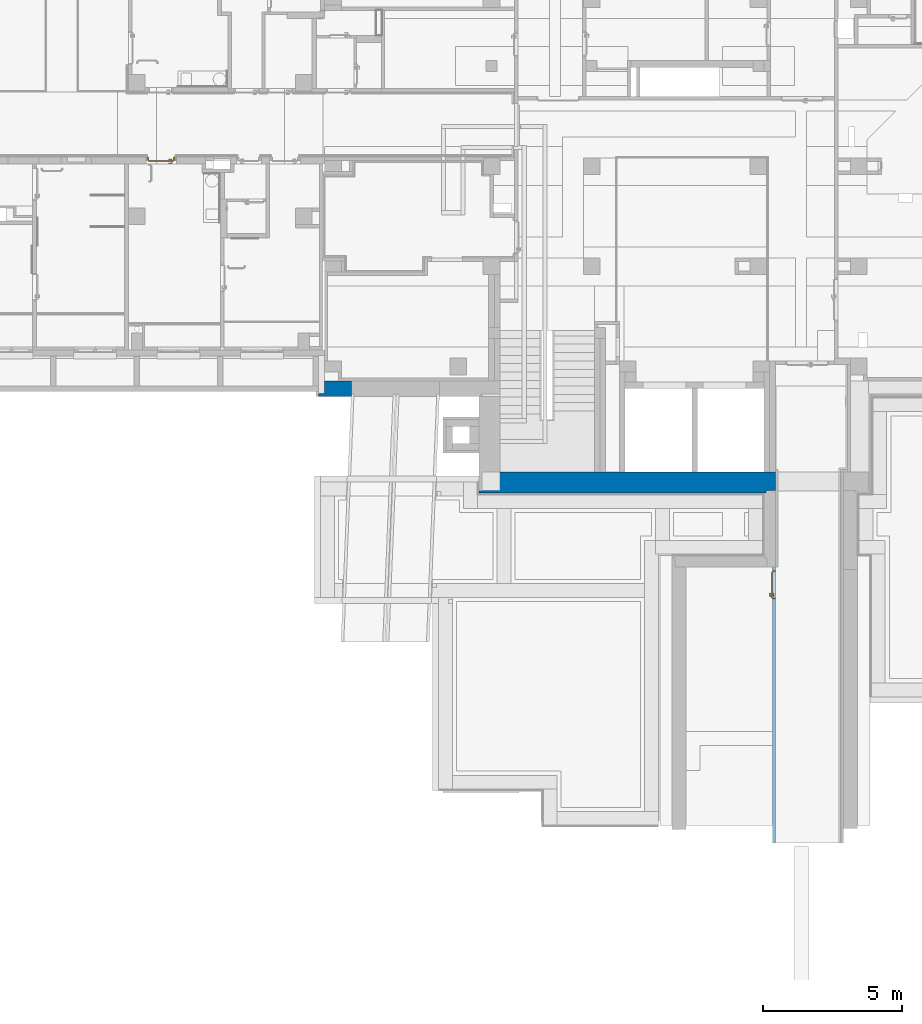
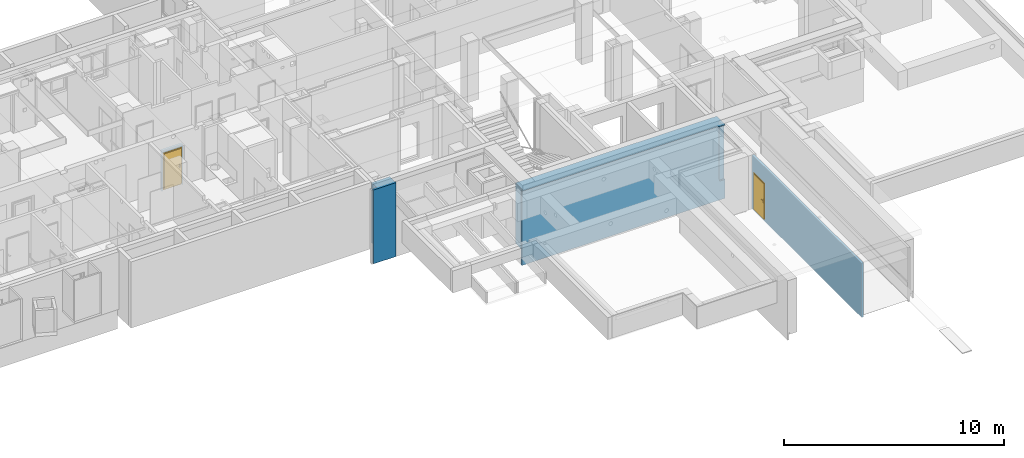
# One storey, part 55 of 84: 2 doors, 2 walls, 2 openings, plus 2 elements that do not belong to this part.
"""IFC4 building model written with IfcOpenShell, lengths in metres."""

from ifc_helpers import new_model, entity, si_unit, converted_unit, derived_unit, frame, frame_2d, origin, origin_with_axes, place, context, subcontext, project, spatial, polyline, rectangle, outline, extrude, closed_shell, open_shell, faceted_brep, surface_model, source, transform, mapped, material, layer, layer_set, layer_usage, type_object, element, fill, save


model = new_model("IFC4")

# Units and contexts
model_context = context("Model", 3, precision=1e-05, world=origin())
body_context = subcontext(model_context, "Body", "Model", "MODEL_VIEW")
ifc_project = project(units=[si_unit("LENGTHUNIT", "METRE"), si_unit("AREAUNIT", "SQUARE_METRE"), si_unit("VOLUMEUNIT", "CUBIC_METRE"), si_unit("MASSUNIT", "GRAM", prefix="KILO"), converted_unit("PLANEANGLEUNIT", "DEGREE", entity("IfcPlaneAngleMeasure", 0.0174532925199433), si_unit("PLANEANGLEUNIT", "RADIAN"), dimensions=[0, 0, 0, 0, 0, 0, 0]), derived_unit("THERMALTRANSMITTANCEUNIT", [(si_unit("POWERUNIT", "WATT"), 1), (si_unit("THERMODYNAMICTEMPERATUREUNIT", "KELVIN"), -1), (si_unit("LENGTHUNIT", "METRE"), -2)]), derived_unit("VOLUMETRICFLOWRATEUNIT", [(si_unit("LENGTHUNIT", "METRE"), 3), (converted_unit("TIMEUNIT", "hour", entity("IfcTimeMeasure", 3600.0), si_unit("TIMEUNIT", "SECOND"), dimensions=[0, 0, 1, 0, 0, 0, 0]), -1), (si_unit("LENGTHUNIT", "METRE"), -1)])], contexts=[model_context])

# Site, building, storey
site_placement = place(None, origin())
site = spatial("IfcSite", under=ifc_project, at=site_placement, Name="3. ASŘ", CompositionType="ELEMENT")
building_placement = place(site_placement, origin())
building = spatial("IfcBuilding", under=site, at=building_placement, Name="Pavilon C", CompositionType="ELEMENT")
storey_placement = place(building_placement, frame((0.0, 0.0, -3.3)))
storey = spatial("IfcBuildingStorey", under=building, at=storey_placement, Name="Půdorys 1.PP", CompositionType="ELEMENT", Elevation=-3.3)

# Walls
ifc_material_1 = material(Name="ZELEZOBETONOVÁ KCE")
wall_1_placement = place(storey_placement, frame((30.295, -4.555, -1.15)))
element("IfcWall", 1, at=wall_1_placement, inside=storey, material=ifc_material_1, Name="ZELEZOBETONOVÁ KCE", context=body_context, shape_type="Brep", body=[
    faceted_brep([(0.104999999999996, 0.755, 0.750000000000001), (10.655, 0.755, 0.750000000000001), (10.655, 0.755, 4.1), (0.104999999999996, 0.755, 4.1), (10.655, 0.0, 4.1), (-3.63797880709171e-15, 0.0, 4.1), (-3.63797880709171e-15, 0.08, 4.1), (0.0799999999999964, 0.0799999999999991, 4.1), (0.0799999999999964, 0.104999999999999, 4.1), (0.104999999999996, 0.105, 4.1), (10.655, 0.105, 0.750000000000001), (10.655, 0.105, 4.05), (10.655, 0.0, 4.05), (0.104999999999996, 0.105, 0.750000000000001), (0.104999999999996, 0.105, 1.15), (10.355, 0.104999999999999, 1.15), (10.355, 0.104999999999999, 4.05), (10.355, 0.0799999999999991, 4.05), (10.33, 0.0799999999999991, 4.05), (10.33, 0.0, 4.05), (10.33, 0.0, 1.15), (10.33, 0.0799999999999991, 1.15), (10.355, 0.0799999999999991, 1.15), (10.355, 0.0, 1.15), (10.355, 0.08, 1.05), (10.355, 0.0, 1.05), (10.655, 0.0, 1.05), (10.655, 0.08, 1.05), (10.655, 0.0, 0.0), (-3.63797880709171e-15, 0.0, 0.0), (-3.63797880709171e-15, 0.08, 0.0), (10.655, 0.08, 0.0), (0.0799999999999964, 0.0799999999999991, 1.15), (0.0799999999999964, 0.104999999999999, 1.15)], [[[0, 1, 2, 3]], [[2, 4, 5, 6, 7, 8, 9, 3]], [[1, 10, 11, 12, 4, 2]], [[10, 1, 0, 13]], [[14, 13, 0, 3, 9]], [[11, 10, 13, 14, 15, 16]], [[11, 16, 17, 18, 19, 12]], [[20, 21, 22, 23]], [[18, 21, 20, 19]], [[23, 22, 24, 25]], [[26, 25, 24, 27]], [[12, 19, 20, 23, 25, 26, 28, 29, 5, 4]], [[29, 30, 6, 5]], [[6, 30, 31, 27, 24, 22, 21, 32, 7]], [[27, 31, 28, 26]], [[28, 31, 30, 29]], [[22, 17, 16, 15]], [[8, 33, 14, 9]], [[32, 33, 8, 7]], [[15, 14, 33, 32, 21, 22]], [[21, 18, 17, 22]]], orient=[[False], [False], [False], [False], [False], [False], [False], [False], [False], [False], [False], [False], [False], [False], [False], [False], [False], [False], [False], [False], [False]]),
])
ifc_material_2 = material(Name="ZELEZOBETONOVÁ KCE")
wall_2_placement = place(storey_placement, frame((24.525, -1.075, -1.15)))
element("IfcWall", 2, at=wall_2_placement, inside=storey, material=ifc_material_2, Name="ZELEZOBETONOVÁ KCE", context=body_context, shape_type="Brep", body=[
    faceted_brep([(0.224999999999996, 0.555, 0.750000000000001), (1.18316897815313, 0.555, 0.750000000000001), (1.18316897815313, 0.555, 4.1), (0.224999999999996, 0.555, 4.1), (1.18316897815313, 0.0, 4.1), (-3.63797880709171e-15, 0.0, 4.1), (-3.63797880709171e-15, 0.08, 4.1), (0.0249999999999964, 0.0799999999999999, 4.1), (0.0249999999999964, 0.105, 4.1), (0.224999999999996, 0.105, 4.1), (1.18316897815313, 0.105, 0.750000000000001), (0.224999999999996, 0.105, 0.750000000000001), (0.224999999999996, 0.105, 1.15), (1.18316897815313, 0.105, 1.15), (1.18316897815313, 0.0799999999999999, 1.15), (1.18316897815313, 0.08, 0.0), (1.18316897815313, 0.0, 0.0), (1.18316897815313, 0.0, 2.77), (1.18316897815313, 0.0799999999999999, 2.77), (1.18316897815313, 0.0799999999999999, 3.47), (1.18316897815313, 0.0, 3.47), (1.17984358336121, 0.0, 3.47), (1.17984358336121, 0.0, 2.77), (-3.63797880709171e-15, 0.0, 0.0), (-3.63797880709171e-15, 0.08, 0.0), (0.0249999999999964, 0.0799999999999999, 1.15), (0.0249999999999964, 0.105, 1.15)], [[[0, 1, 2, 3]], [[2, 4, 5, 6, 7, 8, 9, 3]], [[10, 1, 0, 11]], [[12, 11, 0, 3, 9]], [[1, 10, 13, 14, 15, 16, 17, 18, 19, 20, 4, 2]], [[10, 11, 12, 13]], [[19, 21, 20]], [[18, 22, 21, 19]], [[22, 18, 17]], [[21, 22, 17, 16, 23, 5, 4, 20]], [[23, 24, 6, 5]], [[6, 24, 15, 14, 25, 7]], [[16, 15, 24, 23]], [[25, 26, 8, 7]], [[8, 26, 12, 9]], [[14, 13, 12, 26, 25]]], orient=[[False], [False], [False], [False], [False], [False], [False], [False], [False], [False], [False], [False], [False], [False], [False], [False]]),
])

# Wall, opening, door
ifc_material_3 = material(Name="DŘEVĚNÁ KCE")
ifc_layer_1 = layer(ifc_material_3, 0.1)
ifc_layer_set_1 = layer_set([ifc_layer_1])
ifc_layer_usage_1 = layer_usage(ifc_layer_set_1, "AXIS2", "POSITIVE", 0.0)
wall_3_placement = place(storey_placement, frame((40.95, -17.125, -0.1), z_axis=(0.0, 0.0, 1.0), x_axis=(0.0, 1.0, 0.0)))
wall_3 = element("IfcWall", 3, at=wall_3_placement, inside=storey, material=ifc_layer_usage_1, Name="DŘEVĚNÁ KCE", context=body_context, shape_type="SweptSolid", body=[
    extrude(rectangle(XDim=9.925, YDim=0.1, at=frame_2d((4.9625, 0.05), x_axis=(1.0, 0.0))), origin_with_axes(), (0.0, 0.0, 1.0), 3.0),
])
opening_1_placement = place(wall_3_placement, frame((9.79, 0.1, 0.1), z_axis=(0.0, -1.0, 0.0), x_axis=(0.0, 0.0, 1.0)))
opening_1 = element("IfcOpeningElement", 4, at=opening_1_placement, cuts=wall_3, Name="Dveřní otvor", ObjectType="Opening", context=body_context, shape_type="SweptSolid", body=[
    extrude(outline(polyline([(0.0, 1.03), (2.02, 1.03), (2.02, 0.0), (0.0, 0.0), (0.0, 1.03)])), origin_with_axes(), (0.0, 0.0, 1.0), 0.1),
])
door_type_1 = type_object("IfcDoorType", Name="D101", OperationType="NOTDEFINED", ParameterTakesPrecedence=False, PredefinedType="DOOR")
shared_shape_1 = source(origin_with_axes(), body_context, "Body", "SurfaceModel", [
    surface_model("IfcShellBasedSurfaceModel", [(0.0, 0.1, 2.02), (0.0, 0.1, -6.12323399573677e-18), (0.05, 0.1, -6.12323399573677e-18), (0.05, 0.1, 2.02), (0.0, 0.0, 6.12323399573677e-18), (0.0, 2.41584530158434e-16, 2.02), (0.05, 2.41584530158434e-16, 2.02), (0.05, 0.0, 6.12323399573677e-18)], [closed_shell([[[0, 1, 2, 3]], [[4, 5, 6, 7]], [[1, 0, 5, 4]], [[2, 1, 4, 7]], [[3, 2, 7, 6]], [[0, 3, 6, 5]]], orient=[[False], [False], [False], [False], [False], [False]])]),
    surface_model("IfcShellBasedSurfaceModel", [(0.98, 0.1, 2.02), (0.98, 0.1, -6.12323399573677e-18), (1.03, 0.1, -6.12323399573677e-18), (1.03, 0.1, 2.02), (0.98, 0.0, 6.12323399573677e-18), (0.98, 2.41584530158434e-16, 2.02), (1.03, 2.41584530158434e-16, 2.02), (1.03, 0.0, 6.12323399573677e-18)], [closed_shell([[[0, 1, 2, 3]], [[4, 5, 6, 7]], [[1, 0, 5, 4]], [[2, 1, 4, 7]], [[3, 2, 7, 6]], [[0, 3, 6, 5]]], orient=[[False], [False], [False], [False], [False], [False]])]),
    surface_model("IfcShellBasedSurfaceModel", [(0.05, 0.1, 2.02), (0.05, 0.1, 1.97), (0.98, 0.1, 1.97), (0.98, 0.1, 2.02), (0.05, 2.41584530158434e-16, 1.97), (0.05, 2.41584530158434e-16, 2.02), (0.98, 2.41584530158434e-16, 2.02), (0.98, 2.41584530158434e-16, 1.97)], [closed_shell([[[0, 1, 2, 3]], [[4, 5, 6, 7]], [[1, 0, 5, 4]], [[2, 1, 4, 7]], [[3, 2, 7, 6]], [[0, 3, 6, 5]]], orient=[[False], [False], [False], [False], [False], [False]])]),
    surface_model("IfcShellBasedSurfaceModel", [(0.05, 0.14, 1.97), (0.05, 0.14, -1.10218211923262e-17), (0.98, 0.14, -1.10218211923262e-17), (0.98, 0.14, 1.97), (0.05, 0.1, -6.12323399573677e-18), (0.05, 0.1, 1.97), (0.98, 0.1, 1.97), (0.98, 0.1, -6.12323399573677e-18)], [closed_shell([[[0, 1, 2, 3]], [[4, 5, 6, 7]], [[1, 0, 5, 4]], [[2, 1, 4, 7]], [[3, 2, 7, 6]], [[0, 3, 6, 5]]], orient=[[False], [False], [False], [False], [False], [False]])]),
    surface_model("IfcShellBasedSurfaceModel", [(0.89, 0.1, 1.125), (0.89, 0.1, 0.91), (0.94, 0.1, 0.91), (0.94, 0.1, 1.125), (0.89, 0.0900000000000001, 0.91), (0.89, 0.0900000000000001, 1.125), (0.94, 0.0900000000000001, 1.125), (0.94, 0.0900000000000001, 0.91)], [closed_shell([[[0, 1, 2, 3]], [[4, 5, 6, 7]], [[1, 0, 5, 4]], [[2, 1, 4, 7]], [[3, 2, 7, 6]], [[0, 3, 6, 5]]], orient=[[False], [False], [False], [False], [False], [False]])]),
    surface_model("IfcShellBasedSurfaceModel", [(0.915, 0.0900000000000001, 1.06), (0.91, 0.0900000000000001, 1.05866025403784), (0.906339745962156, 0.0900000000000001, 1.055), (0.905, 0.0900000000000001, 1.05), (0.906339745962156, 0.0900000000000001, 1.045), (0.91, 0.0900000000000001, 1.04133974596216), (0.915, 0.0900000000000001, 1.04), (0.92, 0.0900000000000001, 1.04133974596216), (0.923660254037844, 0.0900000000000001, 1.045), (0.925, 0.0900000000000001, 1.05), (0.923660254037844, 0.0900000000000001, 1.055), (0.92, 0.0900000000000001, 1.05866025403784), (0.92, 0.0450000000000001, 1.05866025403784), (0.915, 0.0500000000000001, 1.06), (0.923660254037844, 0.0413397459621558, 1.055), (0.925, 0.0400000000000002, 1.05), (0.923660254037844, 0.0413397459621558, 1.045), (0.92, 0.0450000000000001, 1.04133974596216), (0.915, 0.0500000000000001, 1.04), (0.91, 0.0550000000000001, 1.04133974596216), (0.906339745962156, 0.0586602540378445, 1.045), (0.905, 0.0600000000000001, 1.05), (0.906339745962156, 0.0586602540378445, 1.055), (0.91, 0.0550000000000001, 1.05866025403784), (0.8, 0.0450000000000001, 1.05866025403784), (0.8, 0.0500000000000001, 1.06), (0.8, 0.0413397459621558, 1.055), (0.8, 0.0400000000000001, 1.05), (0.8, 0.0413397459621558, 1.045), (0.8, 0.0450000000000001, 1.04133974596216), (0.8, 0.0500000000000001, 1.04), (0.8, 0.0550000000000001, 1.04133974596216), (0.8, 0.0586602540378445, 1.045), (0.8, 0.0600000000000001, 1.05), (0.8, 0.0586602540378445, 1.055), (0.8, 0.0550000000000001, 1.05866025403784)], [open_shell([[[0, 1, 2, 3, 4, 5, 6, 7, 8, 9, 10, 11]], [[0, 11, 12, 13]], [[11, 10, 14, 12]], [[10, 9, 15, 14]], [[9, 8, 16, 15]], [[8, 7, 17, 16]], [[7, 6, 18, 17]], [[6, 5, 19, 18]], [[5, 4, 20, 19]], [[4, 3, 21, 20]], [[3, 2, 22, 21]], [[2, 1, 23, 22]], [[1, 0, 13, 23]], [[13, 12, 24, 25]], [[12, 14, 26, 24]], [[14, 15, 27, 26]], [[15, 16, 28, 27]], [[16, 17, 29, 28]], [[17, 18, 30, 29]], [[18, 19, 31, 30]], [[19, 20, 32, 31]], [[20, 21, 33, 32]], [[21, 22, 34, 33]], [[22, 23, 35, 34]], [[23, 13, 25, 35]]], orient=[[False], [False], [False], [False], [False], [False], [False], [False], [False], [False], [False], [False], [False], [False], [False], [False], [False], [False], [False], [False], [False], [False], [False], [False], [False]])]),
    surface_model("IfcShellBasedSurfaceModel", [(0.89, 0.14, 1.125), (0.94, 0.14, 1.125), (0.94, 0.14, 0.91), (0.89, 0.14, 0.91), (0.89, 0.15, 0.91), (0.94, 0.15, 0.91), (0.94, 0.15, 1.125), (0.89, 0.15, 1.125)], [closed_shell([[[0, 1, 2, 3]], [[4, 5, 6, 7]], [[3, 4, 7, 0]], [[2, 5, 4, 3]], [[1, 6, 5, 2]], [[0, 7, 6, 1]]], orient=[[False], [False], [False], [False], [False], [False]])]),
    surface_model("IfcShellBasedSurfaceModel", [(0.915, 0.15, 1.06), (0.92, 0.15, 1.05866025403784), (0.923660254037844, 0.15, 1.055), (0.925, 0.15, 1.05), (0.923660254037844, 0.15, 1.045), (0.92, 0.15, 1.04133974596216), (0.915, 0.15, 1.04), (0.91, 0.15, 1.04133974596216), (0.906339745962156, 0.15, 1.045), (0.905, 0.15, 1.05), (0.906339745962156, 0.15, 1.055), (0.91, 0.15, 1.05866025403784), (0.915, 0.19, 1.06), (0.92, 0.195, 1.05866025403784), (0.923660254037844, 0.198660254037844, 1.055), (0.925, 0.2, 1.05), (0.923660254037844, 0.198660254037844, 1.045), (0.92, 0.195, 1.04133974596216), (0.915, 0.19, 1.04), (0.91, 0.185, 1.04133974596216), (0.906339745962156, 0.181339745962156, 1.045), (0.905, 0.18, 1.05), (0.906339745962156, 0.181339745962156, 1.055), (0.91, 0.185, 1.05866025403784), (0.8, 0.19, 1.06), (0.8, 0.195, 1.05866025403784), (0.8, 0.198660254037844, 1.055), (0.8, 0.2, 1.05), (0.8, 0.198660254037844, 1.045), (0.8, 0.195, 1.04133974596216), (0.8, 0.19, 1.04), (0.8, 0.185, 1.04133974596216), (0.8, 0.181339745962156, 1.045), (0.8, 0.18, 1.05), (0.8, 0.181339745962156, 1.055), (0.8, 0.185, 1.05866025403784)], [open_shell([[[0, 1, 2, 3, 4, 5, 6, 7, 8, 9, 10, 11]], [[0, 12, 13, 1]], [[1, 13, 14, 2]], [[2, 14, 15, 3]], [[3, 15, 16, 4]], [[4, 16, 17, 5]], [[5, 17, 18, 6]], [[6, 18, 19, 7]], [[7, 19, 20, 8]], [[8, 20, 21, 9]], [[9, 21, 22, 10]], [[10, 22, 23, 11]], [[11, 23, 12, 0]], [[12, 24, 25, 13]], [[13, 25, 26, 14]], [[14, 26, 27, 15]], [[15, 27, 28, 16]], [[16, 28, 29, 17]], [[17, 29, 30, 18]], [[18, 30, 31, 19]], [[19, 31, 32, 20]], [[20, 32, 33, 21]], [[21, 33, 34, 22]], [[22, 34, 35, 23]], [[23, 35, 24, 12]]], orient=[[False], [False], [False], [False], [False], [False], [False], [False], [False], [False], [False], [False], [False], [False], [False], [False], [False], [False], [False], [False], [False], [False], [False], [False], [False]])]),
])
door_1_placement = place(opening_1_placement, frame((0.0, -9.09494701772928e-16, 0.0999999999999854), z_axis=(1.0, 0.0, 0.0), x_axis=(0.0, 0.999999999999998, -1.22464679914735e-16)))
door_1 = element("IfcDoor", 5, at=door_1_placement, inside=storey, type_object=door_type_1, Name="D101", OverallHeight=2.02, OverallWidth=1.03, context=body_context, shape_type="MappedRepresentation", body=[
    mapped(shared_shape_1, transform((0.0, 0.0, 0.0), x_axis=(1.0, 0.0, 0.0), y_axis=(0.0, -1.0, 0.0), z_axis=(0.0, 0.0, 1.0), scale=0.999999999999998)),
])
fill(opening_1, door_1)

ifc_material_4 = material(Name="YTONG 125")
ifc_layer_2 = layer(ifc_material_4, 0.125)
ifc_layer_set_2 = layer_set([ifc_layer_2])
ifc_layer_usage_2 = layer_usage(ifc_layer_set_2, "AXIS2", "POSITIVE", 0.0)
wall_4_placement = place(storey_placement, frame((19.425, 7.525, -0.1), z_axis=(0.0, 0.0, 1.0), x_axis=(-1.0, 0.0, 0.0)))
wall_4 = element("IfcWall", 6, at=wall_4_placement, inside=storey, material=ifc_layer_usage_2, Name="YTONG 125", context=body_context, shape_type="SweptSolid", body=[
    extrude(rectangle(XDim=1.1, YDim=0.125, at=frame_2d((0.55, 0.0625), x_axis=(1.0, 0.0))), origin_with_axes(), (0.0, 0.0, 1.0), 2.25),
])
opening_2_placement = place(wall_4_placement, frame((1.05, 0.125, 0.0), z_axis=(0.0, -1.0, 0.0), x_axis=(0.0, 0.0, 1.0)))
opening_2 = element("IfcOpeningElement", 7, at=opening_2_placement, cuts=wall_4, Name="Dveřní otvor", ObjectType="Opening", context=body_context, shape_type="SweptSolid", body=[
    extrude(outline(polyline([(0.0, 1.0), (2.12, 1.0), (2.12, 0.0), (0.0, 0.0), (0.0, 1.0)])), origin_with_axes(), (0.0, 0.0, 1.0), 0.125),
])
door_type_2 = type_object("IfcDoorType", Name="I.D021", OperationType="NOTDEFINED", ParameterTakesPrecedence=False, PredefinedType="DOOR")
shared_shape_2 = source(origin_with_axes(), body_context, "Body", "SurfaceModel", [
    surface_model("IfcShellBasedSurfaceModel", [(0.0, 0.0625, 0.0), (1.0, 0.0625, 0.0), (1.0, 0.0625, 0.1), (0.0, 0.0625, 0.1)], [open_shell([[[0, 1, 2, 3]]], orient=[[False]])]),
    surface_model("IfcShellBasedSurfaceModel", [(0.0, 0.125, 2.12), (0.0, 0.125, 0.101), (0.05, 0.125, 0.101), (0.05, 0.125, 2.12), (0.0, 0.0, 0.101), (0.0, 2.41584530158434e-16, 2.12), (0.05, 2.41584530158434e-16, 2.12), (0.05, 0.0, 0.101)], [closed_shell([[[0, 1, 2, 3]], [[4, 5, 6, 7]], [[1, 0, 5, 4]], [[2, 1, 4, 7]], [[3, 2, 7, 6]], [[0, 3, 6, 5]]], orient=[[False], [False], [False], [False], [False], [False]])]),
    surface_model("IfcShellBasedSurfaceModel", [(0.95, 0.125, 2.12), (0.95, 0.125, 0.101), (1.0, 0.125, 0.101), (1.0, 0.125, 2.12), (0.95, 0.0, 0.101), (0.95, 2.41584530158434e-16, 2.12), (1.0, 2.41584530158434e-16, 2.12), (1.0, 0.0, 0.101)], [closed_shell([[[0, 1, 2, 3]], [[4, 5, 6, 7]], [[1, 0, 5, 4]], [[2, 1, 4, 7]], [[3, 2, 7, 6]], [[0, 3, 6, 5]]], orient=[[False], [False], [False], [False], [False], [False]])]),
    surface_model("IfcShellBasedSurfaceModel", [(0.05, 0.125, 2.12), (0.05, 0.125, 2.07), (0.95, 0.125, 2.07), (0.95, 0.125, 2.12), (0.05, 2.41584530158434e-16, 2.07), (0.05, 2.41584530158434e-16, 2.12), (0.95, 2.41584530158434e-16, 2.12), (0.95, 2.41584530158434e-16, 2.07)], [closed_shell([[[0, 1, 2, 3]], [[4, 5, 6, 7]], [[1, 0, 5, 4]], [[2, 1, 4, 7]], [[3, 2, 7, 6]], [[0, 3, 6, 5]]], orient=[[False], [False], [False], [False], [False], [False]])]),
    surface_model("IfcShellBasedSurfaceModel", [(0.05, 0.165, 2.07), (0.05, 0.165, 0.101), (0.95, 0.165, 0.101), (0.95, 0.165, 2.07), (0.05, 0.125, 0.101), (0.05, 0.125, 2.07), (0.95, 0.125, 2.07), (0.95, 0.125, 0.101)], [closed_shell([[[0, 1, 2, 3]], [[4, 5, 6, 7]], [[1, 0, 5, 4]], [[2, 1, 4, 7]], [[3, 2, 7, 6]], [[0, 3, 6, 5]]], orient=[[False], [False], [False], [False], [False], [False]])]),
    surface_model("IfcShellBasedSurfaceModel", [(0.86, 0.125, 1.226), (0.86, 0.125, 1.011), (0.91, 0.125, 1.011), (0.91, 0.125, 1.226), (0.86, 0.115, 1.011), (0.86, 0.115, 1.226), (0.91, 0.115, 1.226), (0.91, 0.115, 1.011)], [closed_shell([[[0, 1, 2, 3]], [[4, 5, 6, 7]], [[1, 0, 5, 4]], [[2, 1, 4, 7]], [[3, 2, 7, 6]], [[0, 3, 6, 5]]], orient=[[False], [False], [False], [False], [False], [False]])]),
    surface_model("IfcShellBasedSurfaceModel", [(0.885, 0.115, 1.161), (0.88, 0.115, 1.15966025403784), (0.876339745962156, 0.115, 1.156), (0.875, 0.115, 1.151), (0.876339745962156, 0.115, 1.146), (0.88, 0.115, 1.14233974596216), (0.885, 0.115, 1.141), (0.89, 0.115, 1.14233974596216), (0.893660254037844, 0.115, 1.146), (0.895, 0.115, 1.151), (0.893660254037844, 0.115, 1.156), (0.89, 0.115, 1.15966025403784), (0.89, 0.0700000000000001, 1.15966025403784), (0.885, 0.0750000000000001, 1.161), (0.893660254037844, 0.0663397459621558, 1.156), (0.895, 0.0650000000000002, 1.151), (0.893660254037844, 0.0663397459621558, 1.146), (0.89, 0.0700000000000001, 1.14233974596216), (0.885, 0.0750000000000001, 1.141), (0.88, 0.0800000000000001, 1.14233974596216), (0.876339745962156, 0.0836602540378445, 1.146), (0.875, 0.0850000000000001, 1.151), (0.876339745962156, 0.0836602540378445, 1.156), (0.88, 0.0800000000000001, 1.15966025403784), (0.77, 0.0700000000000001, 1.15966025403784), (0.77, 0.0750000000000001, 1.161), (0.77, 0.0663397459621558, 1.156), (0.77, 0.0650000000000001, 1.151), (0.77, 0.0663397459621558, 1.146), (0.77, 0.0700000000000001, 1.14233974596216), (0.77, 0.0750000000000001, 1.141), (0.77, 0.0800000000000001, 1.14233974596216), (0.77, 0.0836602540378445, 1.146), (0.77, 0.0850000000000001, 1.151), (0.77, 0.0836602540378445, 1.156), (0.77, 0.0800000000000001, 1.15966025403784)], [open_shell([[[0, 1, 2, 3, 4, 5, 6, 7, 8, 9, 10, 11]], [[0, 11, 12, 13]], [[11, 10, 14, 12]], [[10, 9, 15, 14]], [[9, 8, 16, 15]], [[8, 7, 17, 16]], [[7, 6, 18, 17]], [[6, 5, 19, 18]], [[5, 4, 20, 19]], [[4, 3, 21, 20]], [[3, 2, 22, 21]], [[2, 1, 23, 22]], [[1, 0, 13, 23]], [[13, 12, 24, 25]], [[12, 14, 26, 24]], [[14, 15, 27, 26]], [[15, 16, 28, 27]], [[16, 17, 29, 28]], [[17, 18, 30, 29]], [[18, 19, 31, 30]], [[19, 20, 32, 31]], [[20, 21, 33, 32]], [[21, 22, 34, 33]], [[22, 23, 35, 34]], [[23, 13, 25, 35]]], orient=[[False], [False], [False], [False], [False], [False], [False], [False], [False], [False], [False], [False], [False], [False], [False], [False], [False], [False], [False], [False], [False], [False], [False], [False], [False]])]),
    surface_model("IfcShellBasedSurfaceModel", [(0.86, 0.165, 1.226), (0.91, 0.165, 1.226), (0.91, 0.165, 1.011), (0.86, 0.165, 1.011), (0.86, 0.175, 1.011), (0.91, 0.175, 1.011), (0.91, 0.175, 1.226), (0.86, 0.175, 1.226)], [closed_shell([[[0, 1, 2, 3]], [[4, 5, 6, 7]], [[3, 4, 7, 0]], [[2, 5, 4, 3]], [[1, 6, 5, 2]], [[0, 7, 6, 1]]], orient=[[False], [False], [False], [False], [False], [False]])]),
    surface_model("IfcShellBasedSurfaceModel", [(0.885, 0.175, 1.161), (0.89, 0.175, 1.15966025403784), (0.893660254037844, 0.175, 1.156), (0.895, 0.175, 1.151), (0.893660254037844, 0.175, 1.146), (0.89, 0.175, 1.14233974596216), (0.885, 0.175, 1.141), (0.88, 0.175, 1.14233974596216), (0.876339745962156, 0.175, 1.146), (0.875, 0.175, 1.151), (0.876339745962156, 0.175, 1.156), (0.88, 0.175, 1.15966025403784), (0.885, 0.215, 1.161), (0.89, 0.22, 1.15966025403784), (0.893660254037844, 0.223660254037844, 1.156), (0.895, 0.225, 1.151), (0.893660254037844, 0.223660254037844, 1.146), (0.89, 0.22, 1.14233974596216), (0.885, 0.215, 1.141), (0.88, 0.21, 1.14233974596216), (0.876339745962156, 0.206339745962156, 1.146), (0.875, 0.205, 1.151), (0.876339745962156, 0.206339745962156, 1.156), (0.88, 0.21, 1.15966025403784), (0.77, 0.215, 1.161), (0.77, 0.22, 1.15966025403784), (0.77, 0.223660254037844, 1.156), (0.77, 0.225, 1.151), (0.77, 0.223660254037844, 1.146), (0.77, 0.22, 1.14233974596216), (0.77, 0.215, 1.141), (0.77, 0.21, 1.14233974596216), (0.77, 0.206339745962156, 1.146), (0.77, 0.205, 1.151), (0.77, 0.206339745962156, 1.156), (0.77, 0.21, 1.15966025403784)], [open_shell([[[0, 1, 2, 3, 4, 5, 6, 7, 8, 9, 10, 11]], [[0, 12, 13, 1]], [[1, 13, 14, 2]], [[2, 14, 15, 3]], [[3, 15, 16, 4]], [[4, 16, 17, 5]], [[5, 17, 18, 6]], [[6, 18, 19, 7]], [[7, 19, 20, 8]], [[8, 20, 21, 9]], [[9, 21, 22, 10]], [[10, 22, 23, 11]], [[11, 23, 12, 0]], [[12, 24, 25, 13]], [[13, 25, 26, 14]], [[14, 26, 27, 15]], [[15, 27, 28, 16]], [[16, 28, 29, 17]], [[17, 29, 30, 18]], [[18, 30, 31, 19]], [[19, 31, 32, 20]], [[20, 32, 33, 21]], [[21, 33, 34, 22]], [[22, 34, 35, 23]], [[23, 35, 24, 12]]], orient=[[False], [False], [False], [False], [False], [False], [False], [False], [False], [False], [False], [False], [False], [False], [False], [False], [False], [False], [False], [False], [False], [False], [False], [False], [False]])]),
])
door_2_placement = place(opening_2_placement, frame((0.0, 0.0, 0.125), z_axis=(1.0, 0.0, 0.0), x_axis=(0.0, 1.0, -1.22464679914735e-16)))
door_2 = element("IfcDoor", 8, at=door_2_placement, inside=storey, type_object=door_type_2, Name="I.D021", OverallHeight=2.12, OverallWidth=1.0, context=body_context, shape_type="MappedRepresentation", body=[
    mapped(shared_shape_2, transform((0.0, 0.0, 0.0), x_axis=(1.0, 0.0, 0.0), y_axis=(0.0, -1.0, 0.0), z_axis=(0.0, 0.0, 1.0), scale=1.0)),
])
fill(opening_2, door_2)

save(model, "model.ifc")
